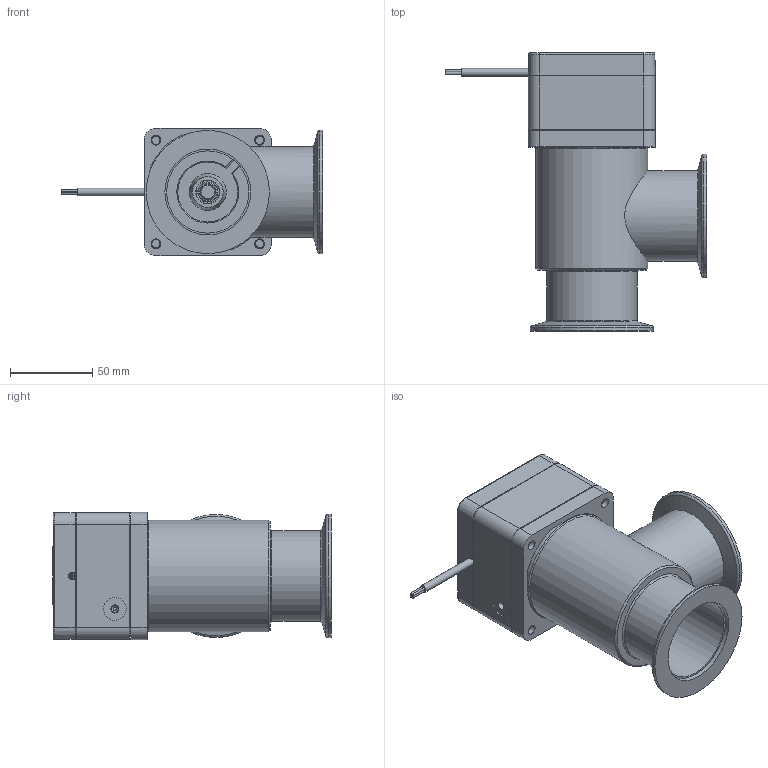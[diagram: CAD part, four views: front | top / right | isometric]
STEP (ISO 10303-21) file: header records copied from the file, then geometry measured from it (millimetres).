
FILE_DESCRIPTION(/* description */ (''),/* implementation_level */ '2;1');
FILE_NAME(/* name */ '1108617860_203',/* time_stamp */ '2009-07-17T14:32:51+02:00',/* author */ (''),/* organization */ (''),/* preprocessor_version */ 'ST-DEVELOPER v11',/* originating_system */ 'UGS - NX 5.0',/* authorisation */ '');
FILE_SCHEMA (('CONFIG_CONTROL_DESIGN'));
Length unit declared in the file: millimetre
Products named in the file (13): 245150; 229101.2; 239888_6.1; 236204_1.1; 248182.3; 252497.8; 248180.9; 245085.3; N-6005-480.1; 245123.5; 402936; 248179.14; 256680.8
Assembly tree (17 placements, depth 3):
  256680.8
    245123.5
    N-6005-480.1  x4
    248179.14
      248180.9
      252497.8
      248182.3
    245085.3
    402936
      236204_1.1  x2
      239888_6.1
      229101.2  x2
      245150
Bounding box: 159.2 x 169.05 x 77.4 mm (x, y, z)
Volume: 249596.1 mm3; surface area: 158105.2 mm2
Topology: 25 solids, 25 shells, 679 faces, 1633 edges, 1050 vertices
Faces by surface type: plane 400, cylinder 134, cone 98, bspline 27, torus 18, sphere 2
Full cylindrical faces by diameter (mm): 1.4 x8, 1.8 x1, 2 x6, 2.2 x4, 2.5 x3, 3 x5, 4.134 x1, 4.4 x1, 4.6 x1, 4.7 x2, 4.96 x4, 5 x5, 5.6 x2, 6 x12, 6.4 x4, 7.4 x1, 8.175 x1, 9.1 x1, 10 x5, 11.975 x3, 12.015 x1, 12.25 x2, 14 x1, 14.009 x1, 16.6 x1, 22.4 x1, 50 x3, 52.2 x2, 55 x2, 63 x1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
Entity records: 18737 total; most frequent: CARTESIAN_POINT 4401, DIRECTION 2571, ORIENTED_EDGE 2472, EDGE_CURVE 1236, AXIS2_PLACEMENT_3D 926, VERTEX_POINT 875, EDGE_LOOP 798, LINE 719
